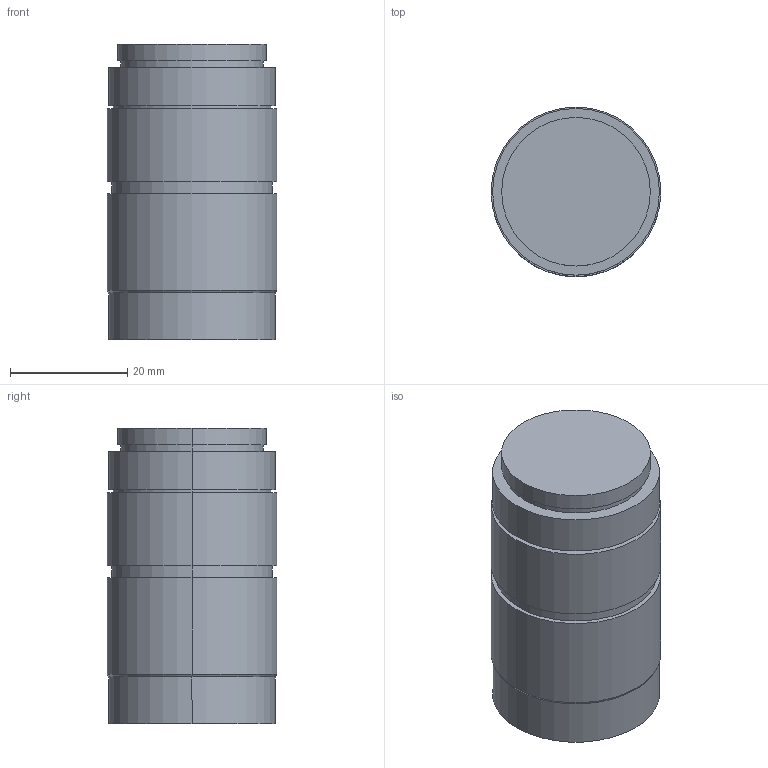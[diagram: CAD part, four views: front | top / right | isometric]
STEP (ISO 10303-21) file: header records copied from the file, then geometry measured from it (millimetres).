
FILE_DESCRIPTION (( 'STEP AP214' ), '1' );
FILE_NAME ('TF4DA.STEP', '2017-09-15T06:48:53', ( '富士フイルム株式会社' ), ( '富士フイルム株式会社' ), 'SwSTEP 2.0', 'SolidWorks 2014', '' );
FILE_SCHEMA (( 'AUTOMOTIVE_DESIGN' ));
Length unit declared in the file: millimetre
Products named in the file (1): TF4DA
Bounding box: 29 x 29 x 50.51 mm (x, y, z)
Volume: 30954.5 mm3; surface area: 6849.8 mm2
Topology: 1 solids, 1 shells, 43 faces, 86 edges, 55 vertices
Faces by surface type: cylinder 24, plane 11, cone 6, sphere 2
Entity records: 1174 total; most frequent: DIRECTION 230, CARTESIAN_POINT 185, ORIENTED_EDGE 172, AXIS2_PLACEMENT_3D 100, EDGE_CURVE 86, CIRCLE 56, VERTEX_POINT 55, EDGE_LOOP 53
